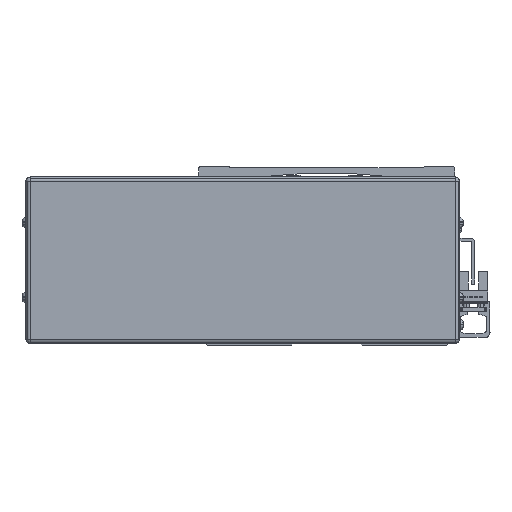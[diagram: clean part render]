
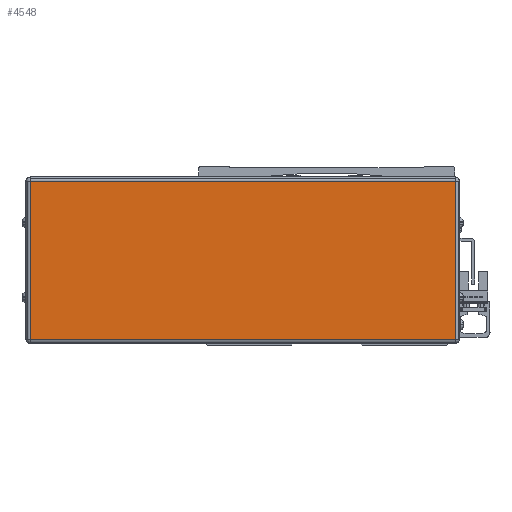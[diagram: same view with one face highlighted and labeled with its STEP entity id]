
A CAD part, front view. The second image highlights one B-rep face of the part: STEP entity #4548.
In plain terms, the highlighted planar face has unit normal (0, -1, 0).
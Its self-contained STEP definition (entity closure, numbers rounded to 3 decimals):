
#4548=ADVANCED_FACE('',(#10234),#10235,.F.);
#10234=FACE_OUTER_BOUND('',#18125,.T.);
#10235=PLANE('',#18126);
#18125=EDGE_LOOP('',(#31914,#31915,#31916,#31917));
#18126=AXIS2_PLACEMENT_3D('',#31918,#31919,#31920);
#31914=ORIENTED_EDGE('',*,*,#48302,.T.);
#31915=ORIENTED_EDGE('',*,*,#45672,.T.);
#31916=ORIENTED_EDGE('',*,*,#48387,.T.);
#31917=ORIENTED_EDGE('',*,*,#48388,.T.);
#31918=CARTESIAN_POINT('',(-340.5,-38.778,-8.));
#31919=DIRECTION('',(0.,1.0,0.));
#31920=DIRECTION('',(-1.0,0.,0.));
#45672=EDGE_CURVE('',#55484,#55482,#55485,.T.);
#48302=EDGE_CURVE('',#55034,#55484,#59564,.T.);
#48387=EDGE_CURVE('',#55482,#59677,#59678,.T.);
#48388=EDGE_CURVE('',#59677,#55034,#59679,.T.);
#55034=VERTEX_POINT('',#68585);
#55482=VERTEX_POINT('',#69254);
#55484=VERTEX_POINT('',#69256);
#55485=LINE('',#69257,#69258);
#59564=LINE('',#75319,#75320);
#59677=VERTEX_POINT('',#75477);
#59678=LINE('',#75478,#75479);
#59679=LINE('',#75480,#75481);
#68585=CARTESIAN_POINT('',(-442.7,-38.778,30.));
#69254=CARTESIAN_POINT('',(-238.3,-38.778,-46.));
#69256=CARTESIAN_POINT('',(-442.7,-38.778,-46.));
#69257=CARTESIAN_POINT('',(-340.5,-38.778,-46.));
#69258=VECTOR('',#83618,10.0);
#75319=CARTESIAN_POINT('',(-442.7,-38.778,-8.));
#75320=VECTOR('',#86921,10.0);
#75477=CARTESIAN_POINT('',(-238.3,-38.778,30.));
#75478=CARTESIAN_POINT('',(-238.3,-38.778,-8.));
#75479=VECTOR('',#87005,10.0);
#75480=CARTESIAN_POINT('',(-340.5,-38.778,30.));
#75481=VECTOR('',#87006,10.0);
#83618=DIRECTION('',(1.0,0.,0.));
#86921=DIRECTION('',(0.0,0.,-1.0));
#87005=DIRECTION('',(0.0,0.,1.0));
#87006=DIRECTION('',(-1.0,0.,0.));
